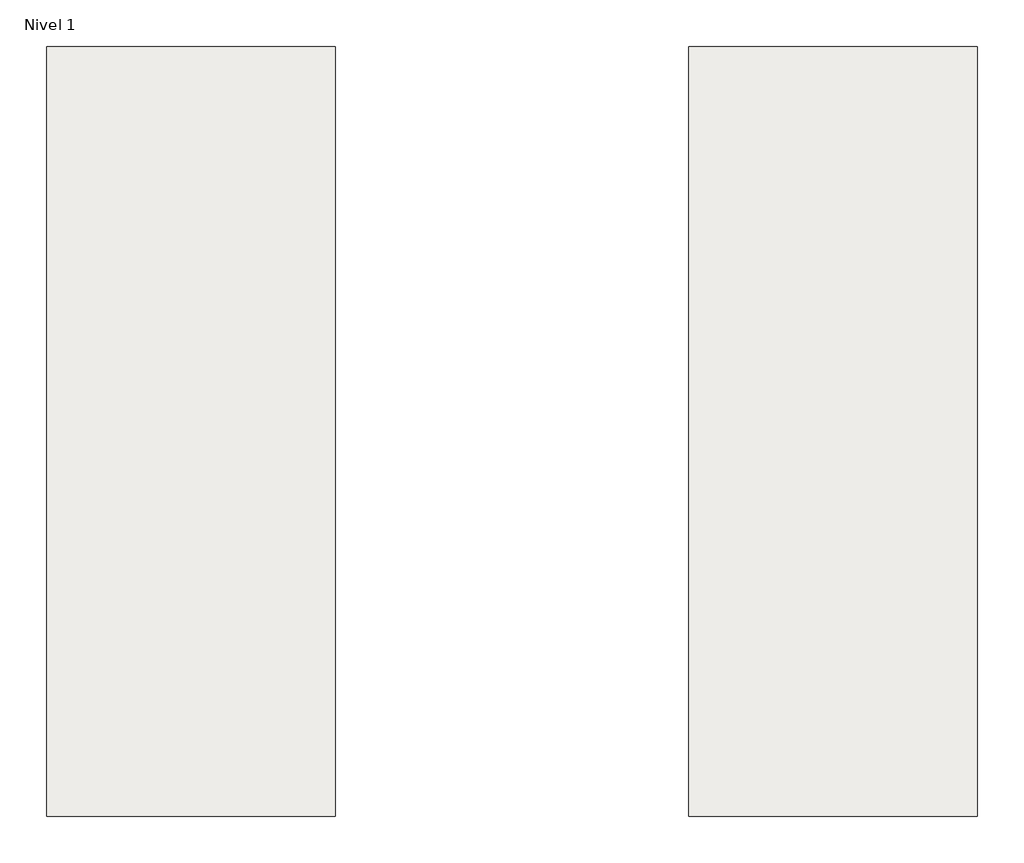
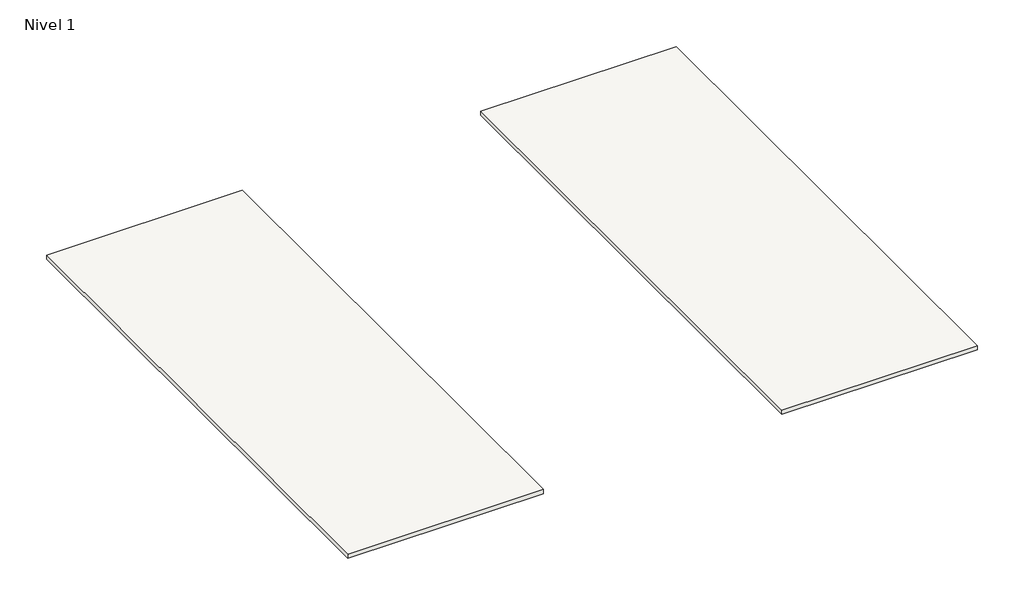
# One storey: 2 slabs.
"""IFC4 building model written with IfcOpenShell, lengths in millimetres."""

from ifc_helpers import new_model, si_unit, frame, origin, place, context, project, spatial, polyline, outline, extrude, element, save

model = new_model("IFC4")

# Units and contexts
model_context = context("Model", 3, world=origin())
ifc_project = project(units=[si_unit("LENGTHUNIT", "METRE", prefix="MILLI")], contexts=[model_context])

# Site, building, storey
site = spatial("IfcSite", under=ifc_project)
building = spatial("IfcBuilding", under=site)
storey = spatial("IfcBuildingStorey", under=building, Name="Nivel 1", Elevation=0.0)

# Slabs
placement = place(None, origin())
element("IfcSlab", 1, ObjectType="Tesuki Blanco 45X120 Rec.", at=placement, inside=storey, context=model_context, shape_type="SweptSolid", body=[
    extrude(outline(polyline([(0.0, 1200.0), (450.0, 1200.0), (450.0, 0.0), (0.0, 0.0), (0.0, 1200.0)])), frame((0.0, 0.0, -10.0), z_axis=(0.0, 0.0, 1.0), x_axis=(1.0, 0.0, 0.0)), (0.0, 0.0, 1.0), 10.0),
])
element("IfcSlab", 2, ObjectType="Gampi Blanco 45X120 Rec.", at=placement, inside=storey, context=model_context, shape_type="SweptSolid", body=[
    extrude(outline(polyline([(1000.0, 1200.0), (1450.0, 1200.0), (1450.0, 0.0), (1000.0, 0.0), (1000.0, 1200.0)])), frame((0.0, 0.0, -10.0), z_axis=(0.0, 0.0, 1.0), x_axis=(1.0, 0.0, 0.0)), (0.0, 0.0, 1.0), 10.0),
])

save(model, "model.ifc")
